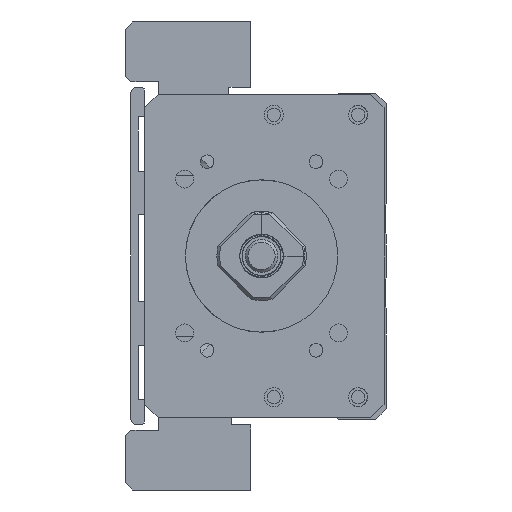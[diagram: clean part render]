
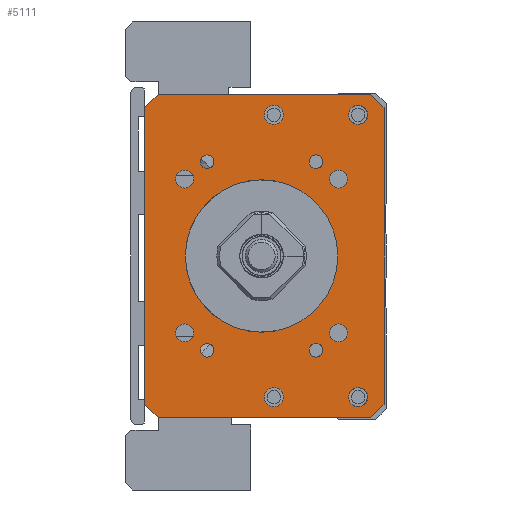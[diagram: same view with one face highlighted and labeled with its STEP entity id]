
A CAD part, left-side view. The second image highlights one B-rep face of the part: STEP entity #5111.
In plain terms, the highlighted planar face has unit normal (-1, 0, 0).
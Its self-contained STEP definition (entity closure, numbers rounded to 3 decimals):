
#5111=ADVANCED_FACE('',(#8137,#8138,#8139,#8140,#8141,#8142,#8143,#8144,
#8145,#8146,#8147,#8148,#8149,#8150),#5747,.F.);
#5747=PLANE('',#16168);
#6285=LINE('',#21310,#7232);
#6287=LINE('',#21334,#7234);
#6288=LINE('',#21336,#7235);
#6289=LINE('',#21338,#7236);
#6290=LINE('',#21340,#7237);
#6291=LINE('',#21342,#7238);
#6292=LINE('',#21344,#7239);
#6293=LINE('',#21346,#7240);
#7232=VECTOR('',#17860,1.);
#7234=VECTOR('',#17884,1.);
#7235=VECTOR('',#17885,1.);
#7236=VECTOR('',#17886,1.);
#7237=VECTOR('',#17887,1.);
#7238=VECTOR('',#17888,1.);
#7239=VECTOR('',#17889,1.);
#7240=VECTOR('',#17890,1.);
#8137=FACE_BOUND('',#8782,.T.);
#8138=FACE_BOUND('',#8783,.T.);
#8139=FACE_BOUND('',#8784,.T.);
#8140=FACE_BOUND('',#8785,.T.);
#8141=FACE_BOUND('',#8786,.T.);
#8142=FACE_BOUND('',#8787,.T.);
#8143=FACE_BOUND('',#8788,.T.);
#8144=FACE_BOUND('',#8789,.T.);
#8145=FACE_BOUND('',#8790,.T.);
#8146=FACE_BOUND('',#8791,.T.);
#8147=FACE_BOUND('',#8792,.T.);
#8148=FACE_BOUND('',#8793,.T.);
#8149=FACE_BOUND('',#8794,.T.);
#8150=FACE_BOUND('',#8795,.T.);
#8782=EDGE_LOOP('',(#10329));
#8783=EDGE_LOOP('',(#10330));
#8784=EDGE_LOOP('',(#10331));
#8785=EDGE_LOOP('',(#10332));
#8786=EDGE_LOOP('',(#10333));
#8787=EDGE_LOOP('',(#10334));
#8788=EDGE_LOOP('',(#10335));
#8789=EDGE_LOOP('',(#10336));
#8790=EDGE_LOOP('',(#10337));
#8791=EDGE_LOOP('',(#10338,#10339,#10340,#10341,#10342,#10343,#10344,#10345));
#8792=EDGE_LOOP('',(#10346));
#8793=EDGE_LOOP('',(#10347));
#8794=EDGE_LOOP('',(#10348));
#8795=EDGE_LOOP('',(#10349));
#10329=ORIENTED_EDGE('',*,*,#14233,.F.);
#10330=ORIENTED_EDGE('',*,*,#14234,.F.);
#10331=ORIENTED_EDGE('',*,*,#14235,.F.);
#10332=ORIENTED_EDGE('',*,*,#14236,.F.);
#10333=ORIENTED_EDGE('',*,*,#14237,.F.);
#10334=ORIENTED_EDGE('',*,*,#14238,.T.);
#10335=ORIENTED_EDGE('',*,*,#14239,.F.);
#10336=ORIENTED_EDGE('',*,*,#14240,.F.);
#10337=ORIENTED_EDGE('',*,*,#14241,.F.);
#10338=ORIENTED_EDGE('',*,*,#14230,.T.);
#10339=ORIENTED_EDGE('',*,*,#14242,.T.);
#10340=ORIENTED_EDGE('',*,*,#14243,.F.);
#10341=ORIENTED_EDGE('',*,*,#14244,.T.);
#10342=ORIENTED_EDGE('',*,*,#14245,.F.);
#10343=ORIENTED_EDGE('',*,*,#14246,.T.);
#10344=ORIENTED_EDGE('',*,*,#14247,.T.);
#10345=ORIENTED_EDGE('',*,*,#14248,.T.);
#10346=ORIENTED_EDGE('',*,*,#14249,.F.);
#10347=ORIENTED_EDGE('',*,*,#14250,.F.);
#10348=ORIENTED_EDGE('',*,*,#14251,.F.);
#10349=ORIENTED_EDGE('',*,*,#14210,.F.);
#12981=VERTEX_POINT('',#21249);
#13001=VERTEX_POINT('',#21309);
#13002=VERTEX_POINT('',#21311);
#13004=VERTEX_POINT('',#21317);
#13005=VERTEX_POINT('',#21319);
#13006=VERTEX_POINT('',#21321);
#13007=VERTEX_POINT('',#21323);
#13008=VERTEX_POINT('',#21325);
#13009=VERTEX_POINT('',#21327);
#13010=VERTEX_POINT('',#21329);
#13011=VERTEX_POINT('',#21331);
#13012=VERTEX_POINT('',#21333);
#13013=VERTEX_POINT('',#21335);
#13014=VERTEX_POINT('',#21337);
#13015=VERTEX_POINT('',#21339);
#13016=VERTEX_POINT('',#21341);
#13017=VERTEX_POINT('',#21343);
#13018=VERTEX_POINT('',#21345);
#13019=VERTEX_POINT('',#21348);
#13020=VERTEX_POINT('',#21350);
#13021=VERTEX_POINT('',#21352);
#14210=EDGE_CURVE('',#12981,#12981,#15533,.T.);
#14230=EDGE_CURVE('',#13002,#13001,#6285,.T.);
#14233=EDGE_CURVE('',#13004,#13004,#15542,.T.);
#14234=EDGE_CURVE('',#13005,#13005,#15543,.T.);
#14235=EDGE_CURVE('',#13006,#13006,#15544,.T.);
#14236=EDGE_CURVE('',#13007,#13007,#15545,.T.);
#14237=EDGE_CURVE('',#13008,#13008,#15546,.T.);
#14238=EDGE_CURVE('',#13009,#13009,#15547,.T.);
#14239=EDGE_CURVE('',#13010,#13010,#15548,.T.);
#14240=EDGE_CURVE('',#13011,#13011,#15549,.T.);
#14241=EDGE_CURVE('',#13012,#13012,#15550,.T.);
#14242=EDGE_CURVE('',#13001,#13013,#6287,.T.);
#14243=EDGE_CURVE('',#13014,#13013,#6288,.T.);
#14244=EDGE_CURVE('',#13014,#13015,#6289,.T.);
#14245=EDGE_CURVE('',#13016,#13015,#6290,.T.);
#14246=EDGE_CURVE('',#13016,#13017,#6291,.T.);
#14247=EDGE_CURVE('',#13017,#13018,#6292,.T.);
#14248=EDGE_CURVE('',#13018,#13002,#6293,.T.);
#14249=EDGE_CURVE('',#13019,#13019,#15551,.T.);
#14250=EDGE_CURVE('',#13020,#13020,#15552,.T.);
#14251=EDGE_CURVE('',#13021,#13021,#15553,.T.);
#15533=CIRCLE('',#16145,14.);
#15542=CIRCLE('',#16156,1.65);
#15543=CIRCLE('',#16157,1.65);
#15544=CIRCLE('',#16158,1.65);
#15545=CIRCLE('',#16159,1.65);
#15546=CIRCLE('',#16160,1.25);
#15547=CIRCLE('',#16161,1.75);
#15548=CIRCLE('',#16162,1.25);
#15549=CIRCLE('',#16163,1.75);
#15550=CIRCLE('',#16164,1.25);
#15551=CIRCLE('',#16165,1.75);
#15552=CIRCLE('',#16166,1.75);
#15553=CIRCLE('',#16167,1.25);
#16145=AXIS2_PLACEMENT_3D('',#21248,#17834,#17835);
#16156=AXIS2_PLACEMENT_3D('',#21316,#17866,#17867);
#16157=AXIS2_PLACEMENT_3D('',#21318,#17868,#17869);
#16158=AXIS2_PLACEMENT_3D('',#21320,#17870,#17871);
#16159=AXIS2_PLACEMENT_3D('',#21322,#17872,#17873);
#16160=AXIS2_PLACEMENT_3D('',#21324,#17874,#17875);
#16161=AXIS2_PLACEMENT_3D('',#21326,#17876,#17877);
#16162=AXIS2_PLACEMENT_3D('',#21328,#17878,#17879);
#16163=AXIS2_PLACEMENT_3D('',#21330,#17880,#17881);
#16164=AXIS2_PLACEMENT_3D('',#21332,#17882,#17883);
#16165=AXIS2_PLACEMENT_3D('',#21347,#17891,#17892);
#16166=AXIS2_PLACEMENT_3D('',#21349,#17893,#17894);
#16167=AXIS2_PLACEMENT_3D('',#21351,#17895,#17896);
#16168=AXIS2_PLACEMENT_3D('',#21353,#17897,#17898);
#17834=DIRECTION('',(-1.,0.,0.));
#17835=DIRECTION('',(0.,1.,0.));
#17860=DIRECTION('',(0.,0.,-1.));
#17866=DIRECTION('',(-1.,0.,0.));
#17867=DIRECTION('',(0.,0.,1.));
#17868=DIRECTION('',(-1.,0.,0.));
#17869=DIRECTION('',(0.,0.,1.));
#17870=DIRECTION('',(-1.,0.,0.));
#17871=DIRECTION('',(0.,0.,1.));
#17872=DIRECTION('',(-1.,0.,0.));
#17873=DIRECTION('',(0.,0.,1.));
#17874=DIRECTION('',(-1.,0.,0.));
#17875=DIRECTION('',(0.,1.,0.));
#17876=DIRECTION('',(1.,0.,0.));
#17877=DIRECTION('',(0.,0.,1.));
#17878=DIRECTION('',(-1.,0.,0.));
#17879=DIRECTION('',(0.,1.,0.));
#17880=DIRECTION('',(-1.,0.,0.));
#17881=DIRECTION('',(0.,0.,1.));
#17882=DIRECTION('',(-1.,0.,0.));
#17883=DIRECTION('',(0.,1.,0.));
#17884=DIRECTION('',(0.,-0.707,-0.707));
#17885=DIRECTION('',(0.,1.,0.));
#17886=DIRECTION('',(0.,-0.707,0.707));
#17887=DIRECTION('',(0.,0.,-1.));
#17888=DIRECTION('',(0.,0.707,0.707));
#17889=DIRECTION('',(0.,1.,0.));
#17890=DIRECTION('',(0.,0.707,-0.707));
#17891=DIRECTION('',(-1.,0.,0.));
#17892=DIRECTION('',(0.,0.,1.));
#17893=DIRECTION('',(-1.,0.,0.));
#17894=DIRECTION('',(0.,0.,1.));
#17895=DIRECTION('',(-1.,0.,0.));
#17896=DIRECTION('',(0.,1.,0.));
#17897=DIRECTION('',(1.,0.,0.));
#17898=DIRECTION('',(0.,1.,0.));
#21248=CARTESIAN_POINT('',(-211.,0.,-100.));
#21249=CARTESIAN_POINT('',(-211.,14.,-100.));
#21309=CARTESIAN_POINT('',(-211.,21.499,-127.25));
#21310=CARTESIAN_POINT('',(-211.,21.499,-70.25));
#21311=CARTESIAN_POINT('',(-211.,21.499,-72.75));
#21316=CARTESIAN_POINT('',(-211.,14.142,-85.858));
#21317=CARTESIAN_POINT('',(-211.,14.142,-84.208));
#21318=CARTESIAN_POINT('',(-211.,-14.142,-85.858));
#21319=CARTESIAN_POINT('',(-211.,-14.142,-84.208));
#21320=CARTESIAN_POINT('',(-211.,14.142,-114.142));
#21321=CARTESIAN_POINT('',(-211.,14.142,-112.492));
#21322=CARTESIAN_POINT('',(-211.,-14.142,-114.142));
#21323=CARTESIAN_POINT('',(-211.,-14.142,-112.492));
#21324=CARTESIAN_POINT('',(-211.,-10.,-117.321));
#21325=CARTESIAN_POINT('',(-211.,-8.75,-117.321));
#21326=CARTESIAN_POINT('',(-211.,-2.25,-125.936));
#21327=CARTESIAN_POINT('',(-211.,-2.25,-124.186));
#21328=CARTESIAN_POINT('',(-211.,10.,-82.679));
#21329=CARTESIAN_POINT('',(-211.,11.25,-82.679));
#21330=CARTESIAN_POINT('',(-211.,-2.25,-74.064));
#21331=CARTESIAN_POINT('',(-211.,-2.25,-72.314));
#21332=CARTESIAN_POINT('',(-211.,10.,-117.321));
#21333=CARTESIAN_POINT('',(-211.,11.25,-117.321));
#21334=CARTESIAN_POINT('',(-211.,18.999,-129.75));
#21335=CARTESIAN_POINT('',(-211.,18.999,-129.75));
#21336=CARTESIAN_POINT('',(-211.,-22.501,-129.75));
#21337=CARTESIAN_POINT('',(-211.,-20.001,-129.75));
#21338=CARTESIAN_POINT('',(-211.,-22.501,-127.25));
#21339=CARTESIAN_POINT('',(-211.,-22.501,-127.25));
#21340=CARTESIAN_POINT('',(-211.,-22.501,-70.25));
#21341=CARTESIAN_POINT('',(-211.,-22.501,-72.75));
#21342=CARTESIAN_POINT('',(-211.,-22.501,-72.75));
#21343=CARTESIAN_POINT('',(-211.,-20.001,-70.25));
#21344=CARTESIAN_POINT('',(-211.,-22.501,-70.25));
#21345=CARTESIAN_POINT('',(-211.,18.999,-70.25));
#21346=CARTESIAN_POINT('',(-211.,18.999,-70.25));
#21347=CARTESIAN_POINT('',(-211.,-17.75,-74.064));
#21348=CARTESIAN_POINT('',(-211.,-17.75,-72.314));
#21349=CARTESIAN_POINT('',(-211.,-17.75,-125.936));
#21350=CARTESIAN_POINT('',(-211.,-17.75,-124.186));
#21351=CARTESIAN_POINT('',(-211.,-10.,-82.679));
#21352=CARTESIAN_POINT('',(-211.,-8.75,-82.679));
#21353=CARTESIAN_POINT('',(-211.,-22.501,-70.25));
